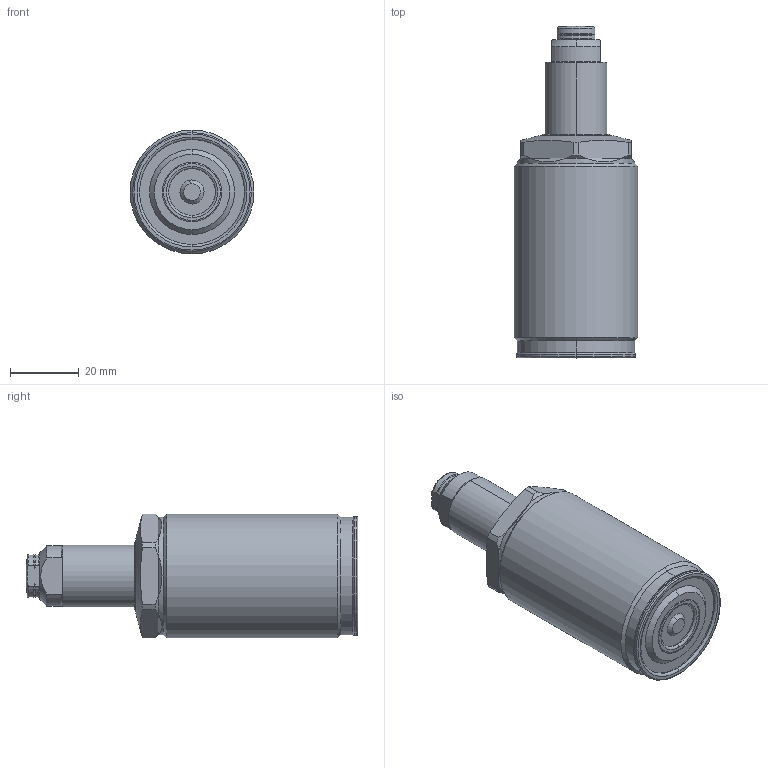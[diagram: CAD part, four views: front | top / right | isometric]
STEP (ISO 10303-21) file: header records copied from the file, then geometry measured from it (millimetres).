
FILE_DESCRIPTION(/* description */ (''),/* implementation_level */ '2;1');
FILE_NAME(/* name */ 'GSS04-Q.stp',/* time_stamp */ '2025-01-10T09:20:30+08:00',/* author */ (''),/* organization */ (''),/* preprocessor_version */ 'ST-DEVELOPER v16.7',/* originating_system */ 'SIEMENS PLM Software NX 12.0',/* authorisation */ '');
FILE_SCHEMA (('AUTOMOTIVE_DESIGN { 1 0 10303 214 3 1 1 1 }'));
Length unit declared in the file: millimetre
Products named in the file (8): AS0101573; TNC0403_ContactBolt_M105260; GSS04-Q-001; GSS04-Q-05; GSS04-Q-04; GSS04-Q-02; GSS04-Q-03; GSS04-Q_stp
Assembly tree (7 placements, depth 3):
  GSS04-Q_stp
    GSS04-Q-02
    GSS04-Q-03
      TNC0403_ContactBolt_M105260
      AS0101573
    GSS04-Q-04
    GSS04-Q-05
    GSS04-Q-001
Bounding box: 36 x 96.4 x 36 mm (x, y, z)
Volume: 69107.8 mm3; surface area: 13235.8 mm2
Topology: 6 solids, 6 shells, 145 faces, 318 edges, 192 vertices
Faces by surface type: cylinder 43, plane 36, torus 34, cone 30, sphere 2
Full cylindrical faces by diameter (mm): 34.2 x1, 36 x1
Entity records: 4345 total; most frequent: CARTESIAN_POINT 899, DIRECTION 771, ORIENTED_EDGE 628, AXIS2_PLACEMENT_3D 344, EDGE_CURVE 314, VERTEX_POINT 192, CIRCLE 185, EDGE_LOOP 162
